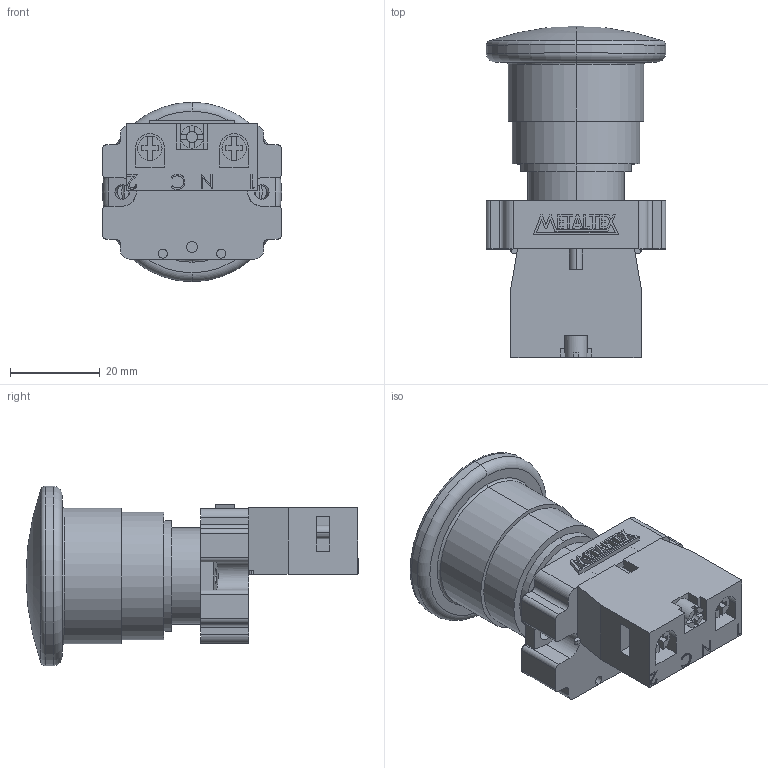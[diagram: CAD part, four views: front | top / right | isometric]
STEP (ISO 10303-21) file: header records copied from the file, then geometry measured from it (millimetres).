
FILE_DESCRIPTION (( 'STEP AP203' ), '1' );
FILE_NAME ('M20AMR-B-1A.STEP', '2018-01-17T13:46:15', ( '' ), ( '' ), 'SwSTEP 2.0', 'SolidWorks 2012', '' );
FILE_SCHEMA (( 'CONFIG_CONTROL_DESIGN' ));
Length unit declared in the file: millimetre
Products named in the file (4): M20AMR; M20-1B; METALTEX 18,98; M20AMR-B-1A
Assembly tree (3 placements, depth 2):
  M20AMR-B-1A
    M20AMR
    M20-1B
    METALTEX 18,98
Bounding box: 40 x 74 x 40 mm (x, y, z)
Volume: 47245.3 mm3; surface area: 13239.9 mm2
Topology: 9 solids, 9 shells, 349 faces, 909 edges, 601 vertices
Faces by surface type: plane 253, cylinder 69, bspline 15, torus 12
Entity records: 11951 total; most frequent: CARTESIAN_POINT 2902, ORIENTED_EDGE 1814, DIRECTION 1731, EDGE_CURVE 907, VECTOR 687, LINE 687, VERTEX_POINT 601, AXIS2_PLACEMENT_3D 522
